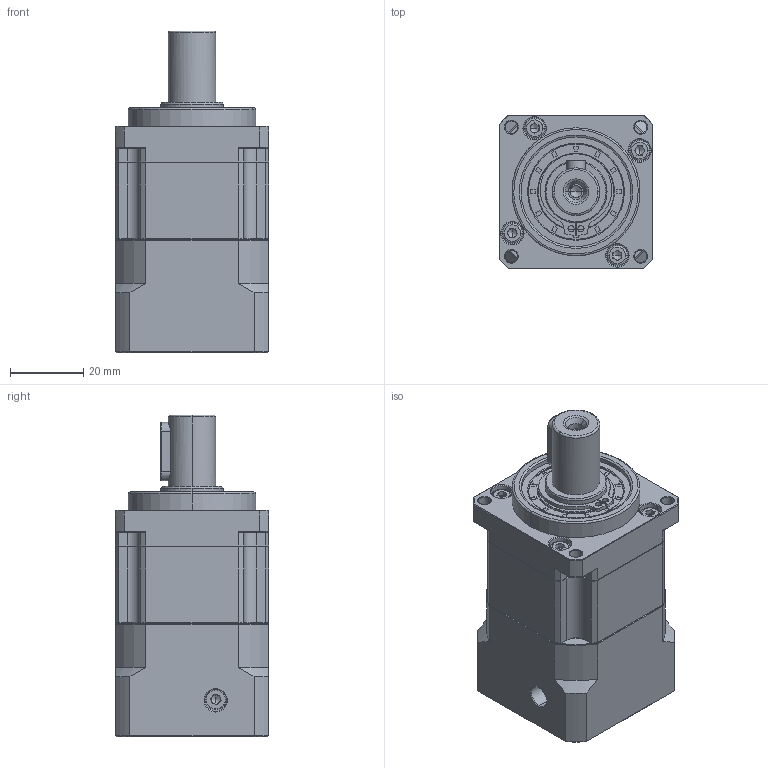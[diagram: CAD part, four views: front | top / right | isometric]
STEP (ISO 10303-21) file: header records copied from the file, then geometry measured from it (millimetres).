
FILE_DESCRIPTION (( 'STEP AP214' ), '1' );
FILE_NAME ('ZB042-D13-L1-P2-8-30-45-M3.STEP', '2023-08-15T11:58:19', ( '' ), ( '' ), 'SwSTEP 2.0', 'SolidWorks 2016', '' );
FILE_SCHEMA (( 'AUTOMOTIVE_DESIGN' ));
Length unit declared in the file: millimetre
Products named in the file (1): ZB042-D13-L1-P2-8-30-45-M3
Bounding box: 42 x 42 x 88 mm (x, y, z)
Volume: 99134.8 mm3; surface area: 26593.8 mm2
Topology: 6 solids, 6 shells, 2264 faces, 6067 edges, 3898 vertices
Faces by surface type: plane 1098, cylinder 431, bspline 412, cone 303, torus 20
Entity records: 124953 total; most frequent: CARTESIAN_POINT 47057, ORIENTED_EDGE 12074, DIRECTION 9315, EDGE_CURVE 6037, VERTEX_POINT 3898, LINE 3825, VECTOR 3825, AXIS2_PLACEMENT_3D 2745
